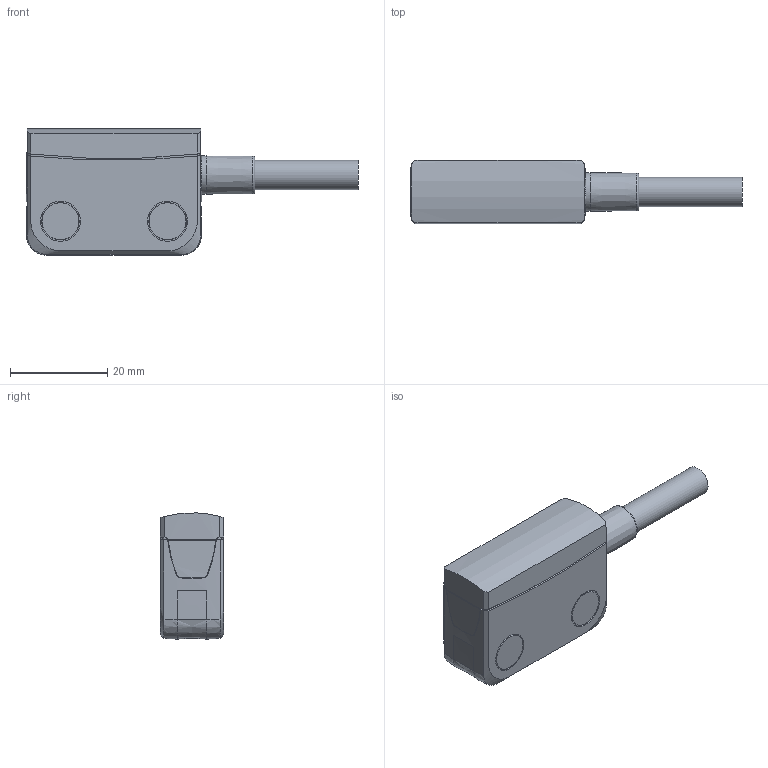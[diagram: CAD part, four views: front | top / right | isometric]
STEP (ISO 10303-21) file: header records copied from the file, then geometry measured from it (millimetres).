
FILE_DESCRIPTION(/* description */ ('Katalogmodell Elobau'),/* implementation_level */ '2;1');
FILE_NAME(/* name */ 'Katalogdaten.stp',/* time_stamp */ '2015-01-22T11:52:06+01:00',/* author */ ('Elobau GmbH & Co. KG'),/* organization */ ('Elobau GmbH & Co. KG'),/* preprocessor_version */ 'ST-DEVELOPER v15',/* originating_system */ 'SIEMENS PLM Software NX 8.5',/* authorisation */ '');
FILE_SCHEMA (('AUTOMOTIVE_DESIGN { 1 0 10303 214 3 1 1 1 }'));
Length unit declared in the file: millimetre
Products named in the file (1): 153ESK00K..._A
Bounding box: 68.17 x 13 x 25.91 mm (x, y, z)
Volume: 12010.7 mm3; surface area: 4907.1 mm2
Topology: 5 solids, 5 shells, 92 faces, 240 edges, 169 vertices
Faces by surface type: bspline 34, plane 26, cylinder 24, cone 5, sphere 2, torus 1
Full cylindrical faces by diameter (mm): 4.5 x2, 6 x1, 7.6 x4, 7.9 x1, 8.2 x4
Entity records: 4177 total; most frequent: CARTESIAN_POINT 2225, ORIENTED_EDGE 424, DIRECTION 252, EDGE_CURVE 212, VERTEX_POINT 159, B_SPLINE_CURVE_WITH_KNOTS 141, EDGE_LOOP 125, AXIS2_PLACEMENT_3D 122
